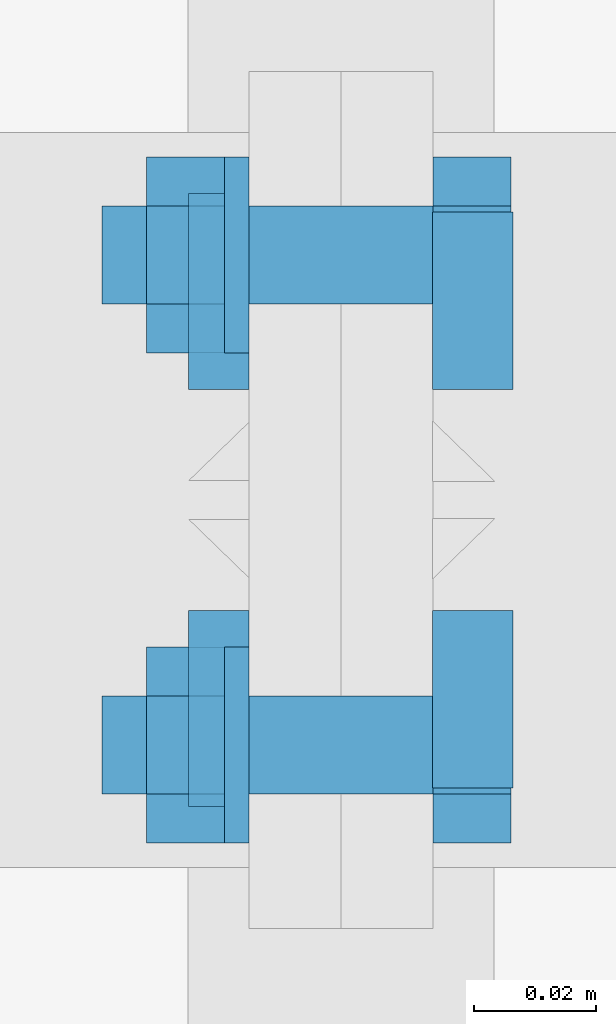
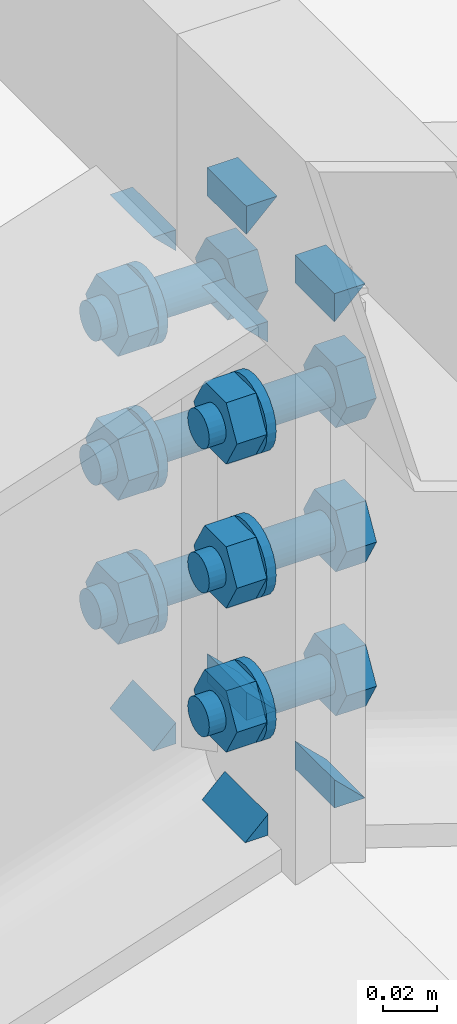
# One storey, part 34 of 53: 24 mechanical fasteners, 12 fasteners.
"""IFC4 building model written with IfcOpenShell, lengths in metres."""

from ifc_helpers import new_model, si_unit, frame, origin_with_axes, place, context, project, spatial, polyline, outline, extrude, type_object, element, save


model = new_model("IFC4")

# Units and contexts
model_context = context("Model", 3, precision=1e-05, world=origin_with_axes())
ifc_project = project(units=[si_unit("LENGTHUNIT", "METRE"), si_unit("AREAUNIT", "SQUARE_METRE"), si_unit("VOLUMEUNIT", "CUBIC_METRE"), si_unit("MASSUNIT", "GRAM", prefix="KILO"), si_unit("TIMEUNIT", "SECOND"), si_unit("PLANEANGLEUNIT", "RADIAN"), si_unit("SOLIDANGLEUNIT", "STERADIAN"), si_unit("THERMODYNAMICTEMPERATUREUNIT", "DEGREE_CELSIUS")], contexts=[model_context])

# Site, building, storey
placement_1 = place(None, origin_with_axes())
site = spatial("IfcSite", under=ifc_project, at=placement_1, Name="Italia", CompositionType="ELEMENT")
building = spatial("IfcBuilding", under=site, at=placement_1, Name="Capannone", CompositionType="ELEMENT")
storey_placement = place(None, frame((0.0, 0.0, 5.550000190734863), z_axis=(0.0, 0.0, 1.0), x_axis=(1.0, 0.0, 0.0)))
storey = spatial("IfcBuildingStorey", under=building, at=storey_placement, Name="Storey 1", CompositionType="ELEMENT", Elevation=5.550000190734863)

# Fasteners
fastener_type_1 = type_object("IfcFastenerType", Name="Collegamenti -1142_-1128 -1143_-1130 -1144_-1132 -1145_-1134 -1146_-1136 -1147_-1138", PredefinedType="WELD")
placement_2 = place(placement_1, origin_with_axes())
fastener_1_placement = place(placement_2, origin_with_axes())
element("IfcFastener", 1, at=fastener_1_placement, inside=storey, type_object=fastener_type_1, Name="Collegamenti -1142_-1128 -1143_-1130 -1144_-1132 -1145_-1134 -1146_-1136 -1147_-1138", context=model_context, shape_type="SweptSolid", body=[
    extrude(outline(polyline([(0.0, 0.0), (-0.0131736, 0.0127764), (4.76837e-07, 0.0127764), (0.0, 0.0)])), frame((7.01495, 8.95295, 8.07465), z_axis=(0.0, 1.0, 0.0), x_axis=(-1.0, 0.0, 0.0)), (0.0, 0.0, 1.0), 0.0290003),
])
fastener_type_2 = type_object("IfcFastenerType", Name="Collegamenti -1142_-1128 -1143_-1130 -1144_-1132 -1145_-1134 -1146_-1136 -1147_-1138", PredefinedType="WELD")
fastener_2_placement = place(placement_2, origin_with_axes())
element("IfcFastener", 2, at=fastener_2_placement, inside=storey, type_object=fastener_type_2, Name="Collegamenti -1142_-1128 -1143_-1130 -1144_-1132 -1145_-1134 -1146_-1136 -1147_-1138", context=model_context, shape_type="SweptSolid", body=[
    extrude(outline(polyline([(0.0, 0.0), (0.0131736, -0.0127788), (0.0, -0.0127788), (0.0, 0.0)])), frame((7.01495, 8.98195, 7.86811), z_axis=(0.0, -1.0, 0.0), x_axis=(1.0, 0.0, 0.0)), (0.0, 0.0, 1.0), 0.0290003),
])
fastener_type_3 = type_object("IfcFastenerType", Name="Collegamenti -1142_-1128 -1143_-1130 -1144_-1132 -1145_-1134 -1146_-1136 -1147_-1138", PredefinedType="WELD")
fastener_3_placement = place(placement_2, origin_with_axes())
element("IfcFastener", 3, at=fastener_3_placement, inside=storey, type_object=fastener_type_3, Name="Collegamenti -1142_-1128 -1143_-1130 -1144_-1132 -1145_-1134 -1146_-1136 -1147_-1138", context=model_context, shape_type="SweptSolid", body=[
    extrude(outline(polyline([(0.0, 0.0), (0.0131736, -0.0127788), (0.0, -0.0127788), (0.0, 0.0)])), frame((7.01495, 9.04705, 7.86811), z_axis=(0.0, -1.0, 0.0), x_axis=(1.0, 0.0, 0.0)), (0.0, 0.0, 1.0), 0.0290003),
])
fastener_type_4 = type_object("IfcFastenerType", Name="Collegamenti -1142_-1128 -1143_-1130 -1144_-1132 -1145_-1134 -1146_-1136 -1147_-1138", PredefinedType="WELD")
fastener_4_placement = place(placement_2, origin_with_axes())
element("IfcFastener", 4, at=fastener_4_placement, inside=storey, type_object=fastener_type_4, Name="Collegamenti -1142_-1128 -1143_-1130 -1144_-1132 -1145_-1134 -1146_-1136 -1147_-1138", context=model_context, shape_type="SweptSolid", body=[
    extrude(outline(polyline([(0.0, 0.0), (-0.0131736, 0.0127764), (4.76837e-07, 0.0127764), (0.0, 0.0)])), frame((7.01495, 9.01805, 8.07465), z_axis=(0.0, 1.0, 0.0), x_axis=(-1.0, 0.0, 0.0)), (0.0, 0.0, 1.0), 0.0290003),
])
fastener_type_5 = type_object("IfcFastenerType", Name="Collegamenti -1142_-1128 -1143_-1130 -1144_-1132 -1145_-1134 -1146_-1136 -1147_-1138", PredefinedType="WELD")
fastener_5_placement = place(placement_2, origin_with_axes())
element("IfcFastener", 5, at=fastener_5_placement, inside=storey, type_object=fastener_type_5, Name="Collegamenti -1142_-1128 -1143_-1130 -1144_-1132 -1145_-1134 -1146_-1136 -1147_-1138", context=model_context, shape_type="SweptSolid", body=[
    extrude(outline(polyline([(0.0, 0.0), (-0.0131736, 0.0127764), (4.76837e-07, 0.0127764), (0.0, 0.0)])), frame((7.01495, 8.95295, 8.07465), z_axis=(0.0, 1.0, 0.0), x_axis=(-1.0, 0.0, 0.0)), (0.0, 0.0, 1.0), 0.0290003),
])
fastener_type_6 = type_object("IfcFastenerType", Name="Collegamenti -1142_-1128 -1143_-1130 -1144_-1132 -1145_-1134 -1146_-1136 -1147_-1138", PredefinedType="WELD")
fastener_6_placement = place(placement_2, origin_with_axes())
element("IfcFastener", 6, at=fastener_6_placement, inside=storey, type_object=fastener_type_6, Name="Collegamenti -1142_-1128 -1143_-1130 -1144_-1132 -1145_-1134 -1146_-1136 -1147_-1138", context=model_context, shape_type="SweptSolid", body=[
    extrude(outline(polyline([(0.0, 0.0), (0.0131736, -0.0127788), (0.0, -0.0127788), (0.0, 0.0)])), frame((7.01495, 8.98195, 7.86811), z_axis=(0.0, -1.0, 0.0), x_axis=(1.0, 0.0, 0.0)), (0.0, 0.0, 1.0), 0.0290003),
])
fastener_type_7 = type_object("IfcFastenerType", Name="Collegamenti -1142_-1128 -1143_-1130 -1144_-1132 -1145_-1134 -1146_-1136 -1147_-1138", PredefinedType="WELD")
fastener_7_placement = place(placement_2, origin_with_axes())
element("IfcFastener", 7, at=fastener_7_placement, inside=storey, type_object=fastener_type_7, Name="Collegamenti -1142_-1128 -1143_-1130 -1144_-1132 -1145_-1134 -1146_-1136 -1147_-1138", context=model_context, shape_type="SweptSolid", body=[
    extrude(outline(polyline([(0.0, 0.0), (0.0131736, -0.0127788), (0.0, -0.0127788), (0.0, 0.0)])), frame((7.01495, 9.04705, 7.86811), z_axis=(0.0, -1.0, 0.0), x_axis=(1.0, 0.0, 0.0)), (0.0, 0.0, 1.0), 0.0290003),
])
fastener_type_8 = type_object("IfcFastenerType", Name="Collegamenti -1142_-1128 -1143_-1130 -1144_-1132 -1145_-1134 -1146_-1136 -1147_-1138", PredefinedType="WELD")
fastener_8_placement = place(placement_2, origin_with_axes())
element("IfcFastener", 8, at=fastener_8_placement, inside=storey, type_object=fastener_type_8, Name="Collegamenti -1142_-1128 -1143_-1130 -1144_-1132 -1145_-1134 -1146_-1136 -1147_-1138", context=model_context, shape_type="SweptSolid", body=[
    extrude(outline(polyline([(0.0, 0.0), (-0.0131736, 0.0127764), (4.76837e-07, 0.0127764), (0.0, 0.0)])), frame((7.01495, 9.01805, 8.07465), z_axis=(0.0, 1.0, 0.0), x_axis=(-1.0, 0.0, 0.0)), (0.0, 0.0, 1.0), 0.0290003),
])
fastener_type_9 = type_object("IfcFastenerType", Name="Collegamenti -1142_-1128 -1143_-1130 -1144_-1132 -1145_-1134 -1146_-1136 -1147_-1138", PredefinedType="WELD")
fastener_9_placement = place(placement_2, origin_with_axes())
element("IfcFastener", 9, at=fastener_9_placement, inside=storey, type_object=fastener_type_9, Name="Collegamenti -1142_-1128 -1143_-1130 -1144_-1132 -1145_-1134 -1146_-1136 -1147_-1138", context=model_context, shape_type="SweptSolid", body=[
    extrude(outline(polyline([(0.0, 0.0), (-0.00982714, -0.0095315), (0.0, -0.0095315), (0.0, 0.0)])), frame((6.98495, 9.05005, 7.86497), z_axis=(0.0, -1.0, 0.0), x_axis=(1.0, 0.0, 0.0)), (0.0, 0.0, 1.0), 0.0319996),
])
fastener_type_10 = type_object("IfcFastenerType", Name="Collegamenti -1142_-1128 -1143_-1130 -1144_-1132 -1145_-1134 -1146_-1136 -1147_-1138", PredefinedType="WELD")
fastener_10_placement = place(placement_2, origin_with_axes())
element("IfcFastener", 10, at=fastener_10_placement, inside=storey, type_object=fastener_type_10, Name="Collegamenti -1142_-1128 -1143_-1130 -1144_-1132 -1145_-1134 -1146_-1136 -1147_-1138", context=model_context, shape_type="SweptSolid", body=[
    extrude(outline(polyline([(0.0, 0.0), (0.00982714, 0.00953293), (0.0, 0.00953197), (0.0, 0.0)])), frame((6.98495, 9.01805, 8.0778), z_axis=(0.0, 1.0, 0.0), x_axis=(-1.0, 0.0, 0.0)), (0.0, 0.0, 1.0), 0.0319996),
])
fastener_type_11 = type_object("IfcFastenerType", Name="Collegamenti -1142_-1128 -1143_-1130 -1144_-1132 -1145_-1134 -1146_-1136 -1147_-1138", PredefinedType="WELD")
fastener_11_placement = place(placement_2, origin_with_axes())
element("IfcFastener", 11, at=fastener_11_placement, inside=storey, type_object=fastener_type_11, Name="Collegamenti -1142_-1128 -1143_-1130 -1144_-1132 -1145_-1134 -1146_-1136 -1147_-1138", context=model_context, shape_type="SweptSolid", body=[
    extrude(outline(polyline([(0.0, 0.0), (0.00982714, 0.00953293), (0.0, 0.00953197), (0.0, 0.0)])), frame((6.98495, 8.94995, 8.0778), z_axis=(0.0, 1.0, 0.0), x_axis=(-1.0, 0.0, 0.0)), (0.0, 0.0, 1.0), 0.0319996),
])
fastener_type_12 = type_object("IfcFastenerType", Name="Collegamenti -1142_-1128 -1143_-1130 -1144_-1132 -1145_-1134 -1146_-1136 -1147_-1138", PredefinedType="WELD")
fastener_12_placement = place(placement_2, origin_with_axes())
element("IfcFastener", 12, at=fastener_12_placement, inside=storey, type_object=fastener_type_12, Name="Collegamenti -1142_-1128 -1143_-1130 -1144_-1132 -1145_-1134 -1146_-1136 -1147_-1138", context=model_context, shape_type="SweptSolid", body=[
    extrude(outline(polyline([(0.0, 0.0), (-0.00982714, -0.0095315), (0.0, -0.0095315), (0.0, 0.0)])), frame((6.98495, 8.98195, 7.86497), z_axis=(0.0, -1.0, 0.0), x_axis=(1.0, 0.0, 0.0)), (0.0, 0.0, 1.0), 0.0319996),
])

# Mechanical fasteners
mechanical_fastener_type_1 = type_object("IfcMechanicalFastenerType", Name="Collegamenti -1142_-1128 -1143_-1130 -1144_-1132 -1145_-1134 -1146_-1136 -1147_-1138", PredefinedType="BOLT")
mechanical_fastener_1_placement = place(placement_2, origin_with_axes())
element("IfcMechanicalFastener", 13, at=mechanical_fastener_1_placement, inside=storey, type_object=mechanical_fastener_type_1, Name="Collegamenti -1142_-1128 -1143_-1130 -1144_-1132 -1145_-1134 -1146_-1136 -1147_-1138", NominalDiameter=0.0159993, context=model_context, shape_type="SweptSolid", body=[
    extrude(outline(polyline([(0.0, 0.0), (-0.0160007, 0.0), (-0.0240002, 0.0138559), (-0.0160007, 0.0277119), (0.0, 0.0277119), (0.00799942, 0.0138559), (0.0, 0.0)])), frame((7.015, 8.968, 7.89746), z_axis=(1.0, 0.0, -3.7253659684e-05), x_axis=(0.0, 1.0, 0.0)), (0.0, 0.0, 1.0), 0.0127997),
])
mechanical_fastener_type_2 = type_object("IfcMechanicalFastenerType", Name="Collegamenti -1142_-1128 -1143_-1130 -1144_-1132 -1145_-1134 -1146_-1136 -1147_-1138", PredefinedType="BOLT")
mechanical_fastener_2_placement = place(placement_2, origin_with_axes())
element("IfcMechanicalFastener", 14, at=mechanical_fastener_2_placement, inside=storey, type_object=mechanical_fastener_type_2, Name="Collegamenti -1142_-1128 -1143_-1130 -1144_-1132 -1145_-1134 -1146_-1136 -1147_-1138", NominalDiameter=0.016, context=model_context, shape_type="SweptSolid", body=[
    extrude(outline(polyline([(0.0, 0.0), (-0.000272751, -0.00207043), (-0.00107193, -0.00400019), (-0.00234318, -0.00565672), (-0.00400066, -0.00692797), (-0.00592995, -0.00772762), (-0.00800037, -0.0079999), (-0.0100708, -0.00772762), (-0.0120001, -0.00692797), (-0.0136576, -0.00565672), (-0.0149288, -0.00400019), (-0.015728, -0.00207043), (-0.0160007, 0.0), (-0.015728, 0.00207043), (-0.0149288, 0.00400019), (-0.0136576, 0.00565672), (-0.0120001, 0.00692797), (-0.0100708, 0.00772762), (-0.00800037, 0.0079999), (-0.00592995, 0.00772762), (-0.00400066, 0.00692797), (-0.00234318, 0.00565672), (-0.00107193, 0.00400019), (-0.000272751, 0.00207043), (0.0, 0.0)])), frame((6.961, 8.968, 7.91131), z_axis=(1.0, 0.0, -1.7660668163e-05), x_axis=(0.0, 1.0, 0.0)), (0.0, 0.0, 1.0), 0.0539999),
])
mechanical_fastener_type_3 = type_object("IfcMechanicalFastenerType", Name="Collegamenti -1142_-1128 -1143_-1130 -1144_-1132 -1145_-1134 -1146_-1136 -1147_-1138", PredefinedType="BOLT")
mechanical_fastener_3_placement = place(placement_2, origin_with_axes())
element("IfcMechanicalFastener", 15, at=mechanical_fastener_3_placement, inside=storey, type_object=mechanical_fastener_type_3, Name="Collegamenti -1142_-1128 -1143_-1130 -1144_-1132 -1145_-1134 -1146_-1136 -1147_-1138", NominalDiameter=0.0159993, context=model_context, shape_type="SweptSolid", body=[
    extrude(outline(polyline([(0.0, 0.0), (-0.0160007, 0.0), (-0.0240002, 0.0138569), (-0.0160007, 0.0277128), (0.0, 0.0277128), (0.00799942, 0.0138569), (0.0, 0.0)])), frame((6.9682, 8.968, 7.89746), z_axis=(1.0, 0.0, 0.0), x_axis=(0.0, 1.0, 0.0)), (0.0, 0.0, 1.0), 0.0128002),
])
mechanical_fastener_type_4 = type_object("IfcMechanicalFastenerType", Name="Collegamenti -1142_-1128 -1143_-1130 -1144_-1132 -1145_-1134 -1146_-1136 -1147_-1138", PredefinedType="BOLT")
mechanical_fastener_4_placement = place(placement_2, origin_with_axes())
element("IfcMechanicalFastener", 16, at=mechanical_fastener_4_placement, inside=storey, type_object=mechanical_fastener_type_4, Name="Collegamenti -1142_-1128 -1143_-1130 -1144_-1132 -1145_-1134 -1146_-1136 -1147_-1138", NominalDiameter=0.032, context=model_context, shape_type="SweptSolid", body=[
    extrude(outline(polyline([(0.0, 0.0), (-0.000544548, -0.00414133), (-0.00214386, -0.0079999), (-0.00468636, -0.0113139), (-0.00799942, -0.0138564), (-0.0118589, -0.0154548), (-0.0159998, -0.0159998), (-0.0201406, -0.0154548), (-0.0240002, -0.0138564), (-0.0273132, -0.0113139), (-0.0298557, -0.0079999), (-0.031455, -0.00414133), (-0.0319996, 0.0), (-0.031455, 0.00414133), (-0.0298557, 0.0079999), (-0.0273132, 0.0113139), (-0.0240002, 0.0138564), (-0.0201406, 0.0154548), (-0.0159998, 0.0159998), (-0.0118589, 0.0154548), (-0.00799942, 0.0138564), (-0.00468636, 0.0113139), (-0.00214386, 0.0079999), (-0.000544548, 0.00414133), (0.0, 0.0)])), frame((6.981, 8.976, 7.91131), z_axis=(1.0, 0.0, 0.0), x_axis=(0.0, 1.0, 0.0)), (0.0, 0.0, 1.0), 0.00399923),
])
mechanical_fastener_type_5 = type_object("IfcMechanicalFastenerType", Name="Collegamenti -1142_-1128 -1143_-1130 -1144_-1132 -1145_-1134 -1146_-1136 -1147_-1138", PredefinedType="BOLT")
mechanical_fastener_5_placement = place(placement_2, origin_with_axes())
element("IfcMechanicalFastener", 17, at=mechanical_fastener_5_placement, inside=storey, type_object=mechanical_fastener_type_5, Name="Collegamenti -1142_-1128 -1143_-1130 -1144_-1132 -1145_-1134 -1146_-1136 -1147_-1138", NominalDiameter=0.0159993, context=model_context, shape_type="SweptSolid", body=[
    extrude(outline(polyline([(0.0, 0.0), (-0.0160007, 0.0), (-0.0240002, 0.0138559), (-0.0160007, 0.0277119), (0.0, 0.0277119), (0.00799942, 0.0138559), (0.0, 0.0)])), frame((7.015, 9.048, 7.89746), z_axis=(1.0, 0.0, -3.7253659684e-05), x_axis=(0.0, 1.0, 0.0)), (0.0, 0.0, 1.0), 0.0127997),
])
mechanical_fastener_type_6 = type_object("IfcMechanicalFastenerType", Name="Collegamenti -1142_-1128 -1143_-1130 -1144_-1132 -1145_-1134 -1146_-1136 -1147_-1138", PredefinedType="BOLT")
mechanical_fastener_6_placement = place(placement_2, origin_with_axes())
element("IfcMechanicalFastener", 18, at=mechanical_fastener_6_placement, inside=storey, type_object=mechanical_fastener_type_6, Name="Collegamenti -1142_-1128 -1143_-1130 -1144_-1132 -1145_-1134 -1146_-1136 -1147_-1138", NominalDiameter=0.016, context=model_context, shape_type="SweptSolid", body=[
    extrude(outline(polyline([(0.0, 0.0), (-0.000272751, -0.00207043), (-0.00107193, -0.00400019), (-0.00234318, -0.00565672), (-0.00400066, -0.00692797), (-0.00592995, -0.00772762), (-0.00800037, -0.0079999), (-0.0100708, -0.00772762), (-0.0120001, -0.00692797), (-0.0136576, -0.00565672), (-0.0149288, -0.00400019), (-0.015728, -0.00207043), (-0.0160007, 0.0), (-0.015728, 0.00207043), (-0.0149288, 0.00400019), (-0.0136576, 0.00565672), (-0.0120001, 0.00692797), (-0.0100708, 0.00772762), (-0.00800037, 0.0079999), (-0.00592995, 0.00772762), (-0.00400066, 0.00692797), (-0.00234318, 0.00565672), (-0.00107193, 0.00400019), (-0.000272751, 0.00207043), (0.0, 0.0)])), frame((6.961, 9.048, 7.91131), z_axis=(1.0, 0.0, -1.7660668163e-05), x_axis=(0.0, 1.0, 0.0)), (0.0, 0.0, 1.0), 0.0539999),
])
mechanical_fastener_type_7 = type_object("IfcMechanicalFastenerType", Name="Collegamenti -1142_-1128 -1143_-1130 -1144_-1132 -1145_-1134 -1146_-1136 -1147_-1138", PredefinedType="BOLT")
mechanical_fastener_7_placement = place(placement_2, origin_with_axes())
element("IfcMechanicalFastener", 19, at=mechanical_fastener_7_placement, inside=storey, type_object=mechanical_fastener_type_7, Name="Collegamenti -1142_-1128 -1143_-1130 -1144_-1132 -1145_-1134 -1146_-1136 -1147_-1138", NominalDiameter=0.0159993, context=model_context, shape_type="SweptSolid", body=[
    extrude(outline(polyline([(0.0, 0.0), (-0.0160007, 0.0), (-0.0240002, 0.0138569), (-0.0160007, 0.0277128), (0.0, 0.0277128), (0.00799942, 0.0138569), (0.0, 0.0)])), frame((6.9682, 9.048, 7.89746), z_axis=(1.0, 0.0, 0.0), x_axis=(0.0, 1.0, 0.0)), (0.0, 0.0, 1.0), 0.0128002),
])
mechanical_fastener_type_8 = type_object("IfcMechanicalFastenerType", Name="Collegamenti -1142_-1128 -1143_-1130 -1144_-1132 -1145_-1134 -1146_-1136 -1147_-1138", PredefinedType="BOLT")
mechanical_fastener_8_placement = place(placement_2, origin_with_axes())
element("IfcMechanicalFastener", 20, at=mechanical_fastener_8_placement, inside=storey, type_object=mechanical_fastener_type_8, Name="Collegamenti -1142_-1128 -1143_-1130 -1144_-1132 -1145_-1134 -1146_-1136 -1147_-1138", NominalDiameter=0.032, context=model_context, shape_type="SweptSolid", body=[
    extrude(outline(polyline([(0.0, 0.0), (-0.000544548, -0.00414133), (-0.00214386, -0.0079999), (-0.00468636, -0.0113139), (-0.00799942, -0.0138564), (-0.0118589, -0.0154548), (-0.0159998, -0.0159998), (-0.0201406, -0.0154548), (-0.0240002, -0.0138564), (-0.0273132, -0.0113139), (-0.0298557, -0.0079999), (-0.031455, -0.00414133), (-0.0319996, 0.0), (-0.031455, 0.00414133), (-0.0298557, 0.0079999), (-0.0273132, 0.0113139), (-0.0240002, 0.0138564), (-0.0201406, 0.0154548), (-0.0159998, 0.0159998), (-0.0118589, 0.0154548), (-0.00799942, 0.0138564), (-0.00468636, 0.0113139), (-0.00214386, 0.0079999), (-0.000544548, 0.00414133), (0.0, 0.0)])), frame((6.981, 9.056, 7.91131), z_axis=(1.0, 0.0, 0.0), x_axis=(0.0, 1.0, 0.0)), (0.0, 0.0, 1.0), 0.00399923),
])
mechanical_fastener_type_9 = type_object("IfcMechanicalFastenerType", Name="Collegamenti -1142_-1128 -1143_-1130 -1144_-1132 -1145_-1134 -1146_-1136 -1147_-1138", PredefinedType="BOLT")
mechanical_fastener_9_placement = place(placement_2, origin_with_axes())
element("IfcMechanicalFastener", 21, at=mechanical_fastener_9_placement, inside=storey, type_object=mechanical_fastener_type_9, Name="Collegamenti -1142_-1128 -1143_-1130 -1144_-1132 -1145_-1134 -1146_-1136 -1147_-1138", NominalDiameter=0.0159993, context=model_context, shape_type="SweptSolid", body=[
    extrude(outline(polyline([(0.0, 0.0), (-0.0160007, 0.0), (-0.0240002, 0.0138559), (-0.0160007, 0.0277128), (0.0, 0.0277128), (0.00799942, 0.0138559), (0.0, 0.0)])), frame((7.015, 8.968, 7.96246), z_axis=(1.0, 0.0, 3.7252273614e-05), x_axis=(0.0, 1.0, 0.0)), (0.0, 0.0, 1.0), 0.0128002),
])
mechanical_fastener_type_10 = type_object("IfcMechanicalFastenerType", Name="Collegamenti -1142_-1128 -1143_-1130 -1144_-1132 -1145_-1134 -1146_-1136 -1147_-1138", PredefinedType="BOLT")
mechanical_fastener_10_placement = place(placement_2, origin_with_axes())
element("IfcMechanicalFastener", 22, at=mechanical_fastener_10_placement, inside=storey, type_object=mechanical_fastener_type_10, Name="Collegamenti -1142_-1128 -1143_-1130 -1144_-1132 -1145_-1134 -1146_-1136 -1147_-1138", NominalDiameter=0.016, context=model_context, shape_type="SweptSolid", body=[
    extrude(outline(polyline([(0.0, 0.0), (-0.000272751, -0.00207043), (-0.00107193, -0.00400019), (-0.00234318, -0.00565672), (-0.00400066, -0.00692797), (-0.00592995, -0.00772762), (-0.00800037, -0.0079999), (-0.0100708, -0.00772762), (-0.0120001, -0.00692797), (-0.0136576, -0.00565672), (-0.0149288, -0.00400019), (-0.015728, -0.00207043), (-0.0160007, 0.0), (-0.015728, 0.00207043), (-0.0149288, 0.00400019), (-0.0136576, 0.00565672), (-0.0120001, 0.00692797), (-0.0100708, 0.00772762), (-0.00800037, 0.0079999), (-0.00592995, 0.00772762), (-0.00400066, 0.00692797), (-0.00234318, 0.00565672), (-0.00107193, 0.00400019), (-0.000272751, 0.00207043), (0.0, 0.0)])), frame((6.961, 8.968, 7.97631), z_axis=(1.0, 0.0, 0.0), x_axis=(0.0, 1.0, 0.0)), (0.0, 0.0, 1.0), 0.0539999),
])
mechanical_fastener_type_11 = type_object("IfcMechanicalFastenerType", Name="Collegamenti -1142_-1128 -1143_-1130 -1144_-1132 -1145_-1134 -1146_-1136 -1147_-1138", PredefinedType="BOLT")
mechanical_fastener_11_placement = place(placement_2, origin_with_axes())
element("IfcMechanicalFastener", 23, at=mechanical_fastener_11_placement, inside=storey, type_object=mechanical_fastener_type_11, Name="Collegamenti -1142_-1128 -1143_-1130 -1144_-1132 -1145_-1134 -1146_-1136 -1147_-1138", NominalDiameter=0.0159993, context=model_context, shape_type="SweptSolid", body=[
    extrude(outline(polyline([(0.0, 0.0), (-0.0160007, 0.0), (-0.0240002, 0.0138559), (-0.0160007, 0.0277128), (0.0, 0.0277128), (0.00799942, 0.0138559), (0.0, 0.0)])), frame((6.9682, 8.968, 7.96246), z_axis=(1.0, 0.0, -3.7253659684e-05), x_axis=(0.0, 1.0, 0.0)), (0.0, 0.0, 1.0), 0.0127997),
])
mechanical_fastener_type_12 = type_object("IfcMechanicalFastenerType", Name="Collegamenti -1142_-1128 -1143_-1130 -1144_-1132 -1145_-1134 -1146_-1136 -1147_-1138", PredefinedType="BOLT")
mechanical_fastener_12_placement = place(placement_2, origin_with_axes())
element("IfcMechanicalFastener", 24, at=mechanical_fastener_12_placement, inside=storey, type_object=mechanical_fastener_type_12, Name="Collegamenti -1142_-1128 -1143_-1130 -1144_-1132 -1145_-1134 -1146_-1136 -1147_-1138", NominalDiameter=0.032, context=model_context, shape_type="SweptSolid", body=[
    extrude(outline(polyline([(0.0, 0.0), (-0.000544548, -0.00414133), (-0.00214386, -0.0079999), (-0.00468636, -0.0113139), (-0.00799942, -0.0138564), (-0.0118589, -0.0154548), (-0.0159998, -0.0159998), (-0.0201406, -0.0154548), (-0.0240002, -0.0138564), (-0.0273132, -0.0113139), (-0.0298557, -0.0079999), (-0.031455, -0.00414133), (-0.0319996, 0.0), (-0.031455, 0.00414133), (-0.0298557, 0.0079999), (-0.0273132, 0.0113139), (-0.0240002, 0.0138564), (-0.0201406, 0.0154548), (-0.0159998, 0.0159998), (-0.0118589, 0.0154548), (-0.00799942, 0.0138564), (-0.00468636, 0.0113139), (-0.00214386, 0.0079999), (-0.000544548, 0.00414133), (0.0, 0.0)])), frame((6.981, 8.976, 7.97631), z_axis=(1.0, 0.0, 0.000238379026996), x_axis=(0.0, 1.0, 0.0)), (0.0, 0.0, 1.0), 0.00400066),
])
mechanical_fastener_type_13 = type_object("IfcMechanicalFastenerType", Name="Collegamenti -1142_-1128 -1143_-1130 -1144_-1132 -1145_-1134 -1146_-1136 -1147_-1138", PredefinedType="BOLT")
mechanical_fastener_13_placement = place(placement_2, origin_with_axes())
element("IfcMechanicalFastener", 25, at=mechanical_fastener_13_placement, inside=storey, type_object=mechanical_fastener_type_13, Name="Collegamenti -1142_-1128 -1143_-1130 -1144_-1132 -1145_-1134 -1146_-1136 -1147_-1138", NominalDiameter=0.0159993, context=model_context, shape_type="SweptSolid", body=[
    extrude(outline(polyline([(0.0, 0.0), (-0.0160007, 0.0), (-0.0240002, 0.0138559), (-0.0160007, 0.0277128), (0.0, 0.0277128), (0.00799942, 0.0138559), (0.0, 0.0)])), frame((7.015, 9.048, 7.96246), z_axis=(1.0, 0.0, 3.7252273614e-05), x_axis=(0.0, 1.0, 0.0)), (0.0, 0.0, 1.0), 0.0128002),
])
mechanical_fastener_type_14 = type_object("IfcMechanicalFastenerType", Name="Collegamenti -1142_-1128 -1143_-1130 -1144_-1132 -1145_-1134 -1146_-1136 -1147_-1138", PredefinedType="BOLT")
mechanical_fastener_14_placement = place(placement_2, origin_with_axes())
element("IfcMechanicalFastener", 26, at=mechanical_fastener_14_placement, inside=storey, type_object=mechanical_fastener_type_14, Name="Collegamenti -1142_-1128 -1143_-1130 -1144_-1132 -1145_-1134 -1146_-1136 -1147_-1138", NominalDiameter=0.016, context=model_context, shape_type="SweptSolid", body=[
    extrude(outline(polyline([(0.0, 0.0), (-0.000272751, -0.00207043), (-0.00107193, -0.00400019), (-0.00234318, -0.00565672), (-0.00400066, -0.00692797), (-0.00592995, -0.00772762), (-0.00800037, -0.0079999), (-0.0100708, -0.00772762), (-0.0120001, -0.00692797), (-0.0136576, -0.00565672), (-0.0149288, -0.00400019), (-0.015728, -0.00207043), (-0.0160007, 0.0), (-0.015728, 0.00207043), (-0.0149288, 0.00400019), (-0.0136576, 0.00565672), (-0.0120001, 0.00692797), (-0.0100708, 0.00772762), (-0.00800037, 0.0079999), (-0.00592995, 0.00772762), (-0.00400066, 0.00692797), (-0.00234318, 0.00565672), (-0.00107193, 0.00400019), (-0.000272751, 0.00207043), (0.0, 0.0)])), frame((6.961, 9.048, 7.97631), z_axis=(1.0, 0.0, 0.0), x_axis=(0.0, 1.0, 0.0)), (0.0, 0.0, 1.0), 0.0539999),
])
mechanical_fastener_type_15 = type_object("IfcMechanicalFastenerType", Name="Collegamenti -1142_-1128 -1143_-1130 -1144_-1132 -1145_-1134 -1146_-1136 -1147_-1138", PredefinedType="BOLT")
mechanical_fastener_15_placement = place(placement_2, origin_with_axes())
element("IfcMechanicalFastener", 27, at=mechanical_fastener_15_placement, inside=storey, type_object=mechanical_fastener_type_15, Name="Collegamenti -1142_-1128 -1143_-1130 -1144_-1132 -1145_-1134 -1146_-1136 -1147_-1138", NominalDiameter=0.0159993, context=model_context, shape_type="SweptSolid", body=[
    extrude(outline(polyline([(0.0, 0.0), (-0.0160007, 0.0), (-0.0240002, 0.0138559), (-0.0160007, 0.0277128), (0.0, 0.0277128), (0.00799942, 0.0138559), (0.0, 0.0)])), frame((6.9682, 9.048, 7.96246), z_axis=(1.0, 0.0, -3.7253659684e-05), x_axis=(0.0, 1.0, 0.0)), (0.0, 0.0, 1.0), 0.0127997),
])
mechanical_fastener_type_16 = type_object("IfcMechanicalFastenerType", Name="Collegamenti -1142_-1128 -1143_-1130 -1144_-1132 -1145_-1134 -1146_-1136 -1147_-1138", PredefinedType="BOLT")
mechanical_fastener_16_placement = place(placement_2, origin_with_axes())
element("IfcMechanicalFastener", 28, at=mechanical_fastener_16_placement, inside=storey, type_object=mechanical_fastener_type_16, Name="Collegamenti -1142_-1128 -1143_-1130 -1144_-1132 -1145_-1134 -1146_-1136 -1147_-1138", NominalDiameter=0.032, context=model_context, shape_type="SweptSolid", body=[
    extrude(outline(polyline([(0.0, 0.0), (-0.000544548, -0.00414133), (-0.00214386, -0.0079999), (-0.00468636, -0.0113139), (-0.00799942, -0.0138564), (-0.0118589, -0.0154548), (-0.0159998, -0.0159998), (-0.0201406, -0.0154548), (-0.0240002, -0.0138564), (-0.0273132, -0.0113139), (-0.0298557, -0.0079999), (-0.031455, -0.00414133), (-0.0319996, 0.0), (-0.031455, 0.00414133), (-0.0298557, 0.0079999), (-0.0273132, 0.0113139), (-0.0240002, 0.0138564), (-0.0201406, 0.0154548), (-0.0159998, 0.0159998), (-0.0118589, 0.0154548), (-0.00799942, 0.0138564), (-0.00468636, 0.0113139), (-0.00214386, 0.0079999), (-0.000544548, 0.00414133), (0.0, 0.0)])), frame((6.981, 9.056, 7.97631), z_axis=(1.0, 0.0, 0.000238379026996), x_axis=(0.0, 1.0, 0.0)), (0.0, 0.0, 1.0), 0.00400066),
])
mechanical_fastener_type_17 = type_object("IfcMechanicalFastenerType", Name="Collegamenti -1142_-1128 -1143_-1130 -1144_-1132 -1145_-1134 -1146_-1136 -1147_-1138", PredefinedType="BOLT")
mechanical_fastener_17_placement = place(placement_2, origin_with_axes())
element("IfcMechanicalFastener", 29, at=mechanical_fastener_17_placement, inside=storey, type_object=mechanical_fastener_type_17, Name="Collegamenti -1142_-1128 -1143_-1130 -1144_-1132 -1145_-1134 -1146_-1136 -1147_-1138", NominalDiameter=0.0159993, context=model_context, shape_type="SweptSolid", body=[
    extrude(outline(polyline([(0.0, 0.0), (-0.0160007, 0.0), (-0.0240002, 0.0138559), (-0.0160007, 0.0277128), (0.0, 0.0277128), (0.00799942, 0.0138559), (0.0, 0.0)])), frame((7.015, 8.968, 8.02746), z_axis=(1.0, 0.0, 7.4504547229e-05), x_axis=(0.0, 1.0, 0.0)), (0.0, 0.0, 1.0), 0.0128002),
])
mechanical_fastener_type_18 = type_object("IfcMechanicalFastenerType", Name="Collegamenti -1142_-1128 -1143_-1130 -1144_-1132 -1145_-1134 -1146_-1136 -1147_-1138", PredefinedType="BOLT")
mechanical_fastener_18_placement = place(placement_2, origin_with_axes())
element("IfcMechanicalFastener", 30, at=mechanical_fastener_18_placement, inside=storey, type_object=mechanical_fastener_type_18, Name="Collegamenti -1142_-1128 -1143_-1130 -1144_-1132 -1145_-1134 -1146_-1136 -1147_-1138", NominalDiameter=0.016, context=model_context, shape_type="SweptSolid", body=[
    extrude(outline(polyline([(0.0, 0.0), (-0.000272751, -0.00207043), (-0.00107193, -0.00399971), (-0.00234318, -0.0056572), (-0.00400066, -0.00692844), (-0.00592995, -0.00772762), (-0.00800037, -0.00800037), (-0.0100708, -0.00772762), (-0.0120001, -0.00692844), (-0.0136576, -0.0056572), (-0.0149288, -0.00399971), (-0.015728, -0.00207043), (-0.0160007, 0.0), (-0.015728, 0.00207043), (-0.0149288, 0.00399971), (-0.0136576, 0.0056572), (-0.0120001, 0.00692844), (-0.0100708, 0.00772762), (-0.00800037, 0.00800037), (-0.00592995, 0.00772762), (-0.00400066, 0.00692844), (-0.00234318, 0.0056572), (-0.00107193, 0.00399971), (-0.000272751, 0.00207043), (0.0, 0.0)])), frame((6.961, 8.968, 8.04131), z_axis=(1.0, 0.0, 3.5321023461e-05), x_axis=(0.0, 1.0, 0.0)), (0.0, 0.0, 1.0), 0.0540004),
])
mechanical_fastener_type_19 = type_object("IfcMechanicalFastenerType", Name="Collegamenti -1142_-1128 -1143_-1130 -1144_-1132 -1145_-1134 -1146_-1136 -1147_-1138", PredefinedType="BOLT")
mechanical_fastener_19_placement = place(placement_2, origin_with_axes())
element("IfcMechanicalFastener", 31, at=mechanical_fastener_19_placement, inside=storey, type_object=mechanical_fastener_type_19, Name="Collegamenti -1142_-1128 -1143_-1130 -1144_-1132 -1145_-1134 -1146_-1136 -1147_-1138", NominalDiameter=0.0159993, context=model_context, shape_type="SweptSolid", body=[
    extrude(outline(polyline([(0.0, 0.0), (-0.0160007, 0.0), (-0.0240002, 0.0138559), (-0.0160007, 0.0277128), (0.0, 0.0277128), (0.00799942, 0.0138559), (0.0, 0.0)])), frame((6.9682, 8.968, 8.02746), z_axis=(1.0, 0.0, -7.4507319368e-05), x_axis=(0.0, 1.0, 0.0)), (0.0, 0.0, 1.0), 0.0127997),
])
mechanical_fastener_type_20 = type_object("IfcMechanicalFastenerType", Name="Collegamenti -1142_-1128 -1143_-1130 -1144_-1132 -1145_-1134 -1146_-1136 -1147_-1138", PredefinedType="BOLT")
mechanical_fastener_20_placement = place(placement_2, origin_with_axes())
element("IfcMechanicalFastener", 32, at=mechanical_fastener_20_placement, inside=storey, type_object=mechanical_fastener_type_20, Name="Collegamenti -1142_-1128 -1143_-1130 -1144_-1132 -1145_-1134 -1146_-1136 -1147_-1138", NominalDiameter=0.032, context=model_context, shape_type="SweptSolid", body=[
    extrude(outline(polyline([(0.0, 0.0), (-0.000544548, -0.00414085), (-0.00214386, -0.00800037), (-0.00468636, -0.0113134), (-0.00799942, -0.0138559), (-0.0118589, -0.0154552), (-0.0159998, -0.0159998), (-0.0201406, -0.0154552), (-0.0240002, -0.0138559), (-0.0273132, -0.0113134), (-0.0298557, -0.00800037), (-0.031455, -0.00414085), (-0.0319996, 0.0), (-0.031455, 0.00414085), (-0.0298557, 0.00800037), (-0.0273132, 0.0113134), (-0.0240002, 0.0138559), (-0.0201406, 0.0154552), (-0.0159998, 0.0159998), (-0.0118589, 0.0154552), (-0.00799942, 0.0138559), (-0.00468636, 0.0113134), (-0.00214386, 0.00800037), (-0.000544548, 0.00414085), (0.0, 0.0)])), frame((6.981, 8.976, 8.04131), z_axis=(0.99999988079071, 0.0, 0.000476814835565), x_axis=(0.0, 1.0, 0.0)), (0.0, 0.0, 1.0), 0.00400019),
])
mechanical_fastener_type_21 = type_object("IfcMechanicalFastenerType", Name="Collegamenti -1142_-1128 -1143_-1130 -1144_-1132 -1145_-1134 -1146_-1136 -1147_-1138", PredefinedType="BOLT")
mechanical_fastener_21_placement = place(placement_2, origin_with_axes())
element("IfcMechanicalFastener", 33, at=mechanical_fastener_21_placement, inside=storey, type_object=mechanical_fastener_type_21, Name="Collegamenti -1142_-1128 -1143_-1130 -1144_-1132 -1145_-1134 -1146_-1136 -1147_-1138", NominalDiameter=0.0159993, context=model_context, shape_type="SweptSolid", body=[
    extrude(outline(polyline([(0.0, 0.0), (-0.0160007, 0.0), (-0.0240002, 0.0138559), (-0.0160007, 0.0277128), (0.0, 0.0277128), (0.00799942, 0.0138559), (0.0, 0.0)])), frame((7.015, 9.048, 8.02746), z_axis=(1.0, 0.0, 7.4504547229e-05), x_axis=(0.0, 1.0, 0.0)), (0.0, 0.0, 1.0), 0.0128002),
])
mechanical_fastener_type_22 = type_object("IfcMechanicalFastenerType", Name="Collegamenti -1142_-1128 -1143_-1130 -1144_-1132 -1145_-1134 -1146_-1136 -1147_-1138", PredefinedType="BOLT")
mechanical_fastener_22_placement = place(placement_2, origin_with_axes())
element("IfcMechanicalFastener", 34, at=mechanical_fastener_22_placement, inside=storey, type_object=mechanical_fastener_type_22, Name="Collegamenti -1142_-1128 -1143_-1130 -1144_-1132 -1145_-1134 -1146_-1136 -1147_-1138", NominalDiameter=0.016, context=model_context, shape_type="SweptSolid", body=[
    extrude(outline(polyline([(0.0, 0.0), (-0.000272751, -0.00207043), (-0.00107193, -0.00399971), (-0.00234318, -0.0056572), (-0.00400066, -0.00692844), (-0.00592995, -0.00772762), (-0.00800037, -0.00800037), (-0.0100708, -0.00772762), (-0.0120001, -0.00692844), (-0.0136576, -0.0056572), (-0.0149288, -0.00399971), (-0.015728, -0.00207043), (-0.0160007, 0.0), (-0.015728, 0.00207043), (-0.0149288, 0.00399971), (-0.0136576, 0.0056572), (-0.0120001, 0.00692844), (-0.0100708, 0.00772762), (-0.00800037, 0.00800037), (-0.00592995, 0.00772762), (-0.00400066, 0.00692844), (-0.00234318, 0.0056572), (-0.00107193, 0.00399971), (-0.000272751, 0.00207043), (0.0, 0.0)])), frame((6.961, 9.048, 8.04131), z_axis=(1.0, 0.0, 3.5321023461e-05), x_axis=(0.0, 1.0, 0.0)), (0.0, 0.0, 1.0), 0.0540004),
])
mechanical_fastener_type_23 = type_object("IfcMechanicalFastenerType", Name="Collegamenti -1142_-1128 -1143_-1130 -1144_-1132 -1145_-1134 -1146_-1136 -1147_-1138", PredefinedType="BOLT")
mechanical_fastener_23_placement = place(placement_2, origin_with_axes())
element("IfcMechanicalFastener", 35, at=mechanical_fastener_23_placement, inside=storey, type_object=mechanical_fastener_type_23, Name="Collegamenti -1142_-1128 -1143_-1130 -1144_-1132 -1145_-1134 -1146_-1136 -1147_-1138", NominalDiameter=0.0159993, context=model_context, shape_type="SweptSolid", body=[
    extrude(outline(polyline([(0.0, 0.0), (-0.0160007, 0.0), (-0.0240002, 0.0138559), (-0.0160007, 0.0277128), (0.0, 0.0277128), (0.00799942, 0.0138559), (0.0, 0.0)])), frame((6.9682, 9.048, 8.02746), z_axis=(1.0, 0.0, -7.4507319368e-05), x_axis=(0.0, 1.0, 0.0)), (0.0, 0.0, 1.0), 0.0127997),
])
mechanical_fastener_type_24 = type_object("IfcMechanicalFastenerType", Name="Collegamenti -1142_-1128 -1143_-1130 -1144_-1132 -1145_-1134 -1146_-1136 -1147_-1138", PredefinedType="BOLT")
mechanical_fastener_24_placement = place(placement_2, origin_with_axes())
element("IfcMechanicalFastener", 36, at=mechanical_fastener_24_placement, inside=storey, type_object=mechanical_fastener_type_24, Name="Collegamenti -1142_-1128 -1143_-1130 -1144_-1132 -1145_-1134 -1146_-1136 -1147_-1138", NominalDiameter=0.032, context=model_context, shape_type="SweptSolid", body=[
    extrude(outline(polyline([(0.0, 0.0), (-0.000544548, -0.00414085), (-0.00214386, -0.00800037), (-0.00468636, -0.0113134), (-0.00799942, -0.0138559), (-0.0118589, -0.0154552), (-0.0159998, -0.0159998), (-0.0201406, -0.0154552), (-0.0240002, -0.0138559), (-0.0273132, -0.0113134), (-0.0298557, -0.00800037), (-0.031455, -0.00414085), (-0.0319996, 0.0), (-0.031455, 0.00414085), (-0.0298557, 0.00800037), (-0.0273132, 0.0113134), (-0.0240002, 0.0138559), (-0.0201406, 0.0154552), (-0.0159998, 0.0159998), (-0.0118589, 0.0154552), (-0.00799942, 0.0138559), (-0.00468636, 0.0113134), (-0.00214386, 0.00800037), (-0.000544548, 0.00414085), (0.0, 0.0)])), frame((6.981, 9.056, 8.04131), z_axis=(0.99999988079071, 0.0, 0.000476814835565), x_axis=(0.0, 1.0, 0.0)), (0.0, 0.0, 1.0), 0.00400019),
])

save(model, "model.ifc")
